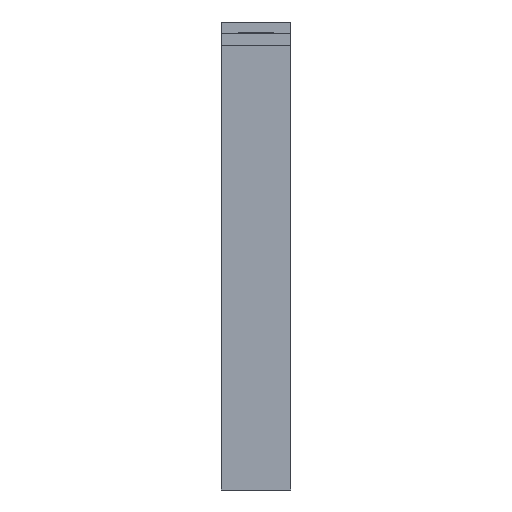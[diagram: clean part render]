
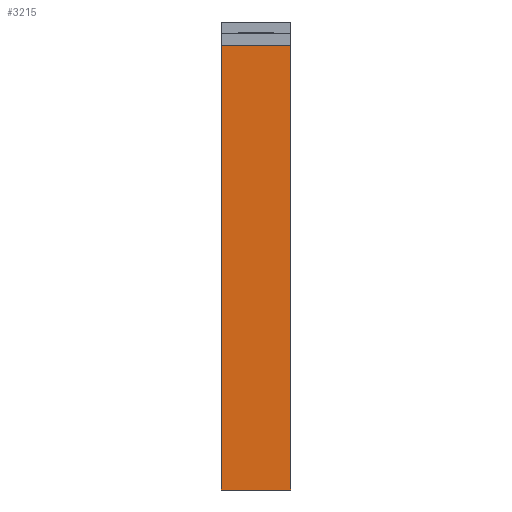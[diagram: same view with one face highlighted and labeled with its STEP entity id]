
A CAD part, front view. The second image highlights one B-rep face of the part: STEP entity #3215.
In plain terms, the highlighted planar face has unit normal (0, -1, 0).
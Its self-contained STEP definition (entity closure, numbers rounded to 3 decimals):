
#93=DIRECTION('',(0.,0.,-1.));
#94=VECTOR('',#93,73.548);
#95=CARTESIAN_POINT('',(-5.75,-59.75,66.548));
#96=LINE('',#95,#94);
#239=DIRECTION('',(0.,0.,-1.));
#240=VECTOR('',#239,73.548);
#241=CARTESIAN_POINT('',(5.75,-59.75,66.548));
#242=LINE('',#241,#240);
#243=DIRECTION('',(-1.,0.,0.));
#244=VECTOR('',#243,11.5);
#245=CARTESIAN_POINT('',(5.75,-59.75,-7.));
#246=LINE('',#245,#244);
#247=DIRECTION('',(-1.,0.,0.));
#248=VECTOR('',#247,11.5);
#249=CARTESIAN_POINT('',(5.75,-59.75,66.548));
#250=LINE('',#249,#248);
#2375=CARTESIAN_POINT('',(-5.75,-59.75,66.548));
#2376=CARTESIAN_POINT('',(-5.75,-59.75,-7.));
#2377=VERTEX_POINT('',#2375);
#2378=VERTEX_POINT('',#2376);
#2443=CARTESIAN_POINT('',(5.75,-59.75,66.548));
#2444=VERTEX_POINT('',#2443);
#2445=CARTESIAN_POINT('',(5.75,-59.75,-7.));
#2446=VERTEX_POINT('',#2445);
#3201=CARTESIAN_POINT('',(-5.75,-59.75,-7.));
#3202=DIRECTION('',(0.,-1.,0.));
#3203=DIRECTION('',(0.,0.,1.));
#3204=AXIS2_PLACEMENT_3D('',#3201,#3202,#3203);
#3205=PLANE('',#3204);
#3206=ORIENTED_EDGE('',*,*,#3127,.F.);
#3208=ORIENTED_EDGE('',*,*,#3207,.F.);
#3210=ORIENTED_EDGE('',*,*,#3209,.T.);
#3212=ORIENTED_EDGE('',*,*,#3211,.T.);
#3213=EDGE_LOOP('',(#3206,#3208,#3210,#3212));
#3214=FACE_OUTER_BOUND('',#3213,.F.);
#3215=ADVANCED_FACE('',(#3214),#3205,.T.);
#3127=EDGE_CURVE('',#2377,#2378,#96,.T.);
#3207=EDGE_CURVE('',#2444,#2377,#250,.T.);
#3209=EDGE_CURVE('',#2444,#2446,#242,.T.);
#3211=EDGE_CURVE('',#2446,#2378,#246,.T.);
